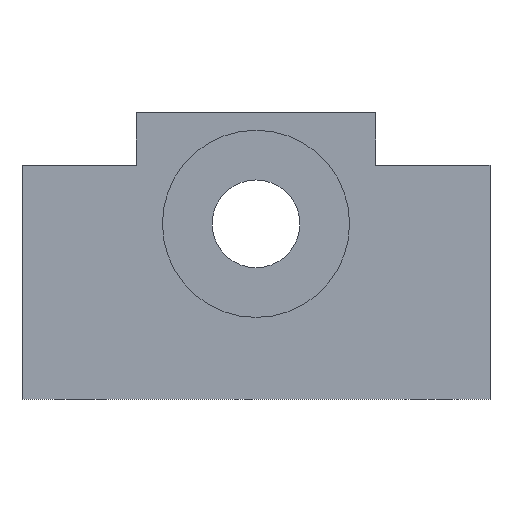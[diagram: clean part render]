
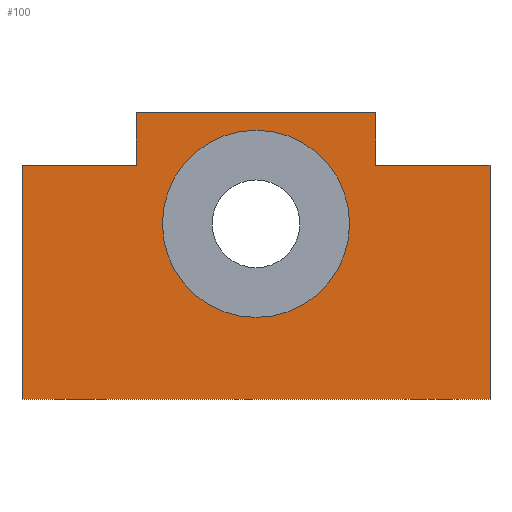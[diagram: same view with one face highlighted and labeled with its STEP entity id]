
A CAD part, left-side view. The second image highlights one B-rep face of the part: STEP entity #100.
In plain terms, the highlighted planar face has unit normal (-1, 0, 0).
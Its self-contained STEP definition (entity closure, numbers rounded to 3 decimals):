
#100=ADVANCED_FACE('',(#155,#156),#117,.F.);
#117=PLANE('',#423);
#129=CIRCLE('',#422,16.);
#155=FACE_BOUND('',#193,.T.);
#156=FACE_BOUND('',#194,.T.);
#193=EDGE_LOOP('',(#262,#263,#264,#265,#266,#267,#268,#269));
#194=EDGE_LOOP('',(#270));
#262=ORIENTED_EDGE('',*,*,#337,.F.);
#263=ORIENTED_EDGE('',*,*,#335,.F.);
#264=ORIENTED_EDGE('',*,*,#332,.F.);
#265=ORIENTED_EDGE('',*,*,#330,.F.);
#266=ORIENTED_EDGE('',*,*,#328,.F.);
#267=ORIENTED_EDGE('',*,*,#326,.F.);
#268=ORIENTED_EDGE('',*,*,#323,.F.);
#269=ORIENTED_EDGE('',*,*,#321,.F.);
#270=ORIENTED_EDGE('',*,*,#344,.T.);
#290=VERTEX_POINT('',#556);
#291=VERTEX_POINT('',#558);
#292=VERTEX_POINT('',#562);
#294=VERTEX_POINT('',#568);
#295=VERTEX_POINT('',#572);
#296=VERTEX_POINT('',#576);
#297=VERTEX_POINT('',#580);
#299=VERTEX_POINT('',#586);
#306=VERTEX_POINT('',#610);
#321=EDGE_CURVE('LINE',#290,#291,#358,.T.);
#323=EDGE_CURVE('LINE',#291,#292,#360,.T.);
#326=EDGE_CURVE('LINE',#292,#294,#362,.T.);
#328=EDGE_CURVE('LINE',#294,#295,#364,.T.);
#330=EDGE_CURVE('LINE',#295,#296,#366,.T.);
#332=EDGE_CURVE('LINE',#296,#297,#368,.T.);
#335=EDGE_CURVE('LINE',#297,#299,#370,.T.);
#337=EDGE_CURVE('LINE',#299,#290,#372,.T.);
#344=EDGE_CURVE('',#306,#306,#129,.T.);
#358=LINE('',#557,#382);
#360=LINE('',#561,#384);
#362=LINE('',#567,#386);
#364=LINE('',#571,#388);
#366=LINE('',#575,#390);
#368=LINE('',#579,#392);
#370=LINE('',#585,#394);
#372=LINE('',#589,#396);
#382=VECTOR('',#450,1.);
#384=VECTOR('',#454,1.);
#386=VECTOR('',#460,1.);
#388=VECTOR('',#464,1.);
#390=VECTOR('',#468,1.);
#392=VECTOR('',#472,1.);
#394=VECTOR('',#478,1.);
#396=VECTOR('',#482,1.);
#422=AXIS2_PLACEMENT_3D('',#609,#509,#510);
#423=AXIS2_PLACEMENT_3D('',#611,#511,#512);
#450=DIRECTION('',(0.,0.,1.));
#454=DIRECTION('',(0.,-1.,0.));
#460=DIRECTION('',(0.,0.,1.));
#464=DIRECTION('',(0.,-1.,0.));
#468=DIRECTION('',(0.,0.,-1.));
#472=DIRECTION('',(0.,-1.,0.));
#478=DIRECTION('',(0.,0.,-1.));
#482=DIRECTION('',(0.,1.,0.));
#509=DIRECTION('',(1.,0.,0.));
#510=DIRECTION('',(0.,0.,-1.));
#511=DIRECTION('',(1.,0.,0.));
#512=DIRECTION('',(0.,-1.,0.));
#556=CARTESIAN_POINT('',(-10.,40.,0.));
#557=CARTESIAN_POINT('',(-10.,40.,20.));
#558=CARTESIAN_POINT('',(-10.,40.,40.));
#561=CARTESIAN_POINT('',(-10.,30.25,40.));
#562=CARTESIAN_POINT('',(-10.,20.5,40.));
#567=CARTESIAN_POINT('',(-10.,20.5,44.5));
#568=CARTESIAN_POINT('',(-10.,20.5,49.));
#571=CARTESIAN_POINT('',(-10.,0.,49.));
#572=CARTESIAN_POINT('',(-10.,-20.5,49.));
#575=CARTESIAN_POINT('',(-10.,-20.5,44.5));
#576=CARTESIAN_POINT('',(-10.,-20.5,40.));
#579=CARTESIAN_POINT('',(-10.,-30.25,40.));
#580=CARTESIAN_POINT('',(-10.,-40.,40.));
#585=CARTESIAN_POINT('',(-10.,-40.,20.));
#586=CARTESIAN_POINT('',(-10.,-40.,0.));
#589=CARTESIAN_POINT('',(-10.,0.,0.));
#609=CARTESIAN_POINT('',(-10.,0.,30.));
#610=CARTESIAN_POINT('',(-10.,0.,14.));
#611=CARTESIAN_POINT('',(-10.,0.,0.));
